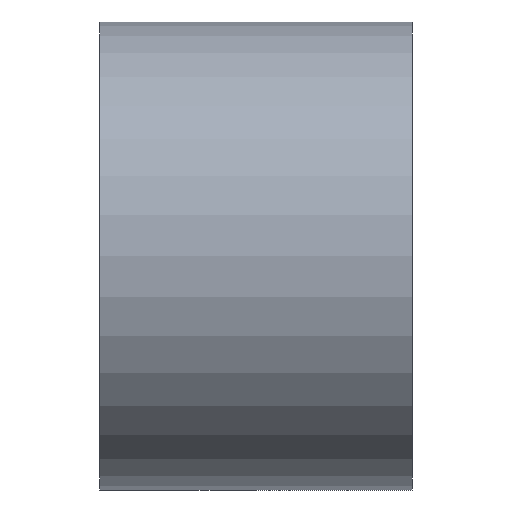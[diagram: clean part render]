
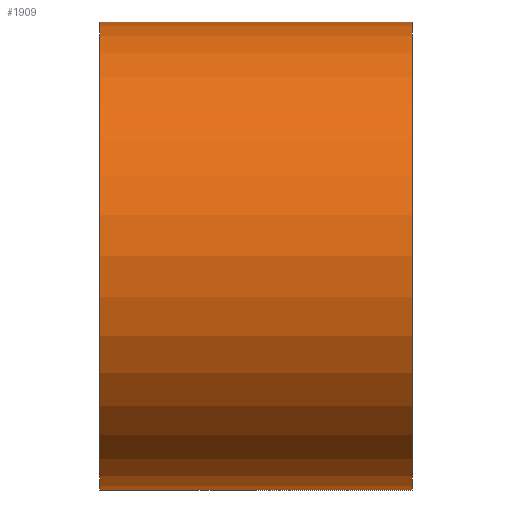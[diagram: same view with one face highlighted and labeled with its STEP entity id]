
A CAD part, left-side view. The second image highlights one B-rep face of the part: STEP entity #1909.
In plain terms, the highlighted cylindrical face has radius 38.1 mm (diameter 76.2 mm), a full revolution.
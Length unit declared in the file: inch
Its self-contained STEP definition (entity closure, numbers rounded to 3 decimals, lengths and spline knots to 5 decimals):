
#257=FACE_OUTER_BOUND('',#349,.T.);
#349=EDGE_LOOP('',(#1576,#1577,#1578,#1579));
#529=LINE('',#3236,#673);
#673=VECTOR('',#2696,1.5);
#790=CIRCLE('',#2139,1.5);
#791=CIRCLE('',#2140,1.5);
#966=VERTEX_POINT('',#3233);
#967=VERTEX_POINT('',#3235);
#1227=EDGE_CURVE('',#966,#966,#790,.T.);
#1228=EDGE_CURVE('',#966,#967,#529,.T.);
#1229=EDGE_CURVE('',#967,#967,#791,.T.);
#1576=ORIENTED_EDGE('',*,*,#1227,.F.);
#1577=ORIENTED_EDGE('',*,*,#1228,.T.);
#1578=ORIENTED_EDGE('',*,*,#1229,.T.);
#1579=ORIENTED_EDGE('',*,*,#1228,.F.);
#1821=CYLINDRICAL_SURFACE('',#2138,1.5);
#1909=ADVANCED_FACE('',(#257),#1821,.T.);
#2138=AXIS2_PLACEMENT_3D('',#3232,#2692,#2693);
#2139=AXIS2_PLACEMENT_3D('',#3234,#2694,#2695);
#2140=AXIS2_PLACEMENT_3D('',#3237,#2697,#2698);
#2692=DIRECTION('center_axis',(0.,1.,0.));
#2693=DIRECTION('ref_axis',(-1.,0.,0.));
#2694=DIRECTION('center_axis',(0.,1.,0.));
#2695=DIRECTION('ref_axis',(-1.,0.,0.));
#2696=DIRECTION('',(0.,-1.,0.));
#2697=DIRECTION('center_axis',(0.,1.,0.));
#2698=DIRECTION('ref_axis',(-1.,0.,0.));
#3232=CARTESIAN_POINT('Origin',(0.,0.,0.));
#3233=CARTESIAN_POINT('',(1.5,2.,0.));
#3234=CARTESIAN_POINT('Origin',(0.,2.,0.));
#3235=CARTESIAN_POINT('',(1.5,0.,0.));
#3236=CARTESIAN_POINT('',(1.5,0.,0.));
#3237=CARTESIAN_POINT('Origin',(0.,0.,0.));
